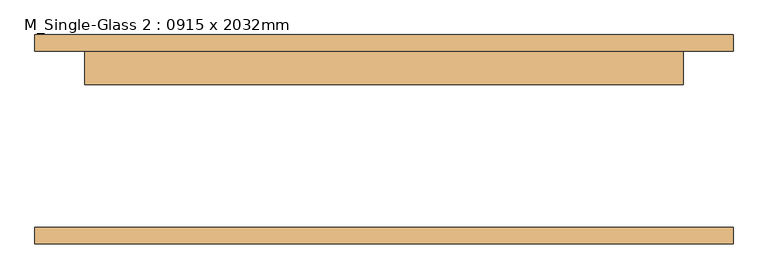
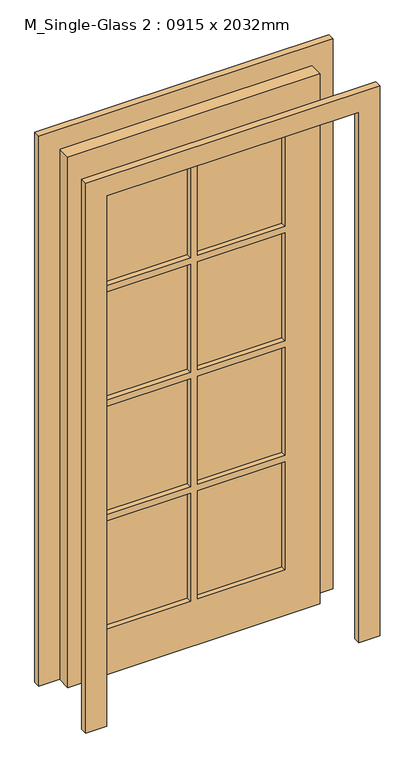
"""IFC4 building model written with IfcOpenShell, lengths in millimetres: door geometry, M_Single-Glass 2 : 0915 x 2032mm."""

from ifc_helpers import new_model, si_unit, frame, origin, place, context, project, spatial, polyline, outline, extrude, source, transform, mapped, element, save


def m_single_glass_2_0915_x_2032mm_2251aea1(model_context):
    return source(origin(), model_context, "Body", "SweptSolid", [
        extrude(outline(polyline([(2108.0, 558.9), (2108.0, -508.1), (0.0, -508.1), (0.0, -432.1), (2032.0, -432.1), (2032.0, 482.9), (0.0, 482.9), (0.0, 558.9), (2108.0, 558.9)])), frame((0.0, -160.0, 0.0), z_axis=(0.0, 1.0, 0.0), x_axis=(0.0, 0.0, 1.0)), (0.0, 0.0, 1.0), 25.0),
        extrude(outline(polyline([(2108.0, -508.1), (0.0, -508.1), (0.0, -432.1), (2032.0, -432.1), (2032.0, 482.9), (0.0, 482.9), (0.0, 558.9), (2108.0, 558.9), (2108.0, -508.1)])), frame((0.0, 135.0, 0.0), z_axis=(0.0, 1.0, 0.0), x_axis=(0.0, 0.0, 1.0)), (0.0, 0.0, 1.0), 25.0),
        extrude(outline(polyline([(2032.0, 482.9), (2032.0, -432.1), (0.0, -432.1), (0.0, 482.9), (2032.0, 482.9)]), holes=[polyline([(1905.4, 12.9), (1491.55, 12.9), (1491.55, -305.1), (1905.4, -305.1), (1905.4, 12.9)]), polyline([(1905.4, 355.9), (1491.55, 355.9), (1491.55, 37.9), (1905.4, 37.9), (1905.4, 355.9)]), polyline([(1466.55, 12.9), (1052.7, 12.9), (1052.7, -305.1), (1466.55, -305.1), (1466.55, 12.9)]), polyline([(1466.55, 355.9), (1052.7, 355.9), (1052.7, 37.9), (1466.55, 37.9), (1466.55, 355.9)]), polyline([(1027.7, 12.9), (613.85, 12.9), (613.85, -305.1), (1027.7, -305.1), (1027.7, 12.9)]), polyline([(1027.7, 355.9), (613.85, 355.9), (613.85, 37.9), (1027.7, 37.9), (1027.7, 355.9)]), polyline([(588.85, 12.9), (175.0, 12.9), (175.0, -305.1), (588.85, -305.1), (588.85, 12.9)]), polyline([(588.85, 355.9), (175.0, 355.9), (175.0, 37.9), (588.85, 37.9), (588.85, 355.9)])]), frame((0.0, 84.0, 0.0), z_axis=(0.0, 1.0, 0.0), x_axis=(0.0, 0.0, 1.0)), (0.0, 0.0, 1.0), 51.0),
        extrude(outline(polyline([(12.9, 103.25), (-305.1, 103.25), (-305.1, 115.75), (12.9, 115.75), (12.9, 103.25)])), frame((0.0, 0.0, 1491.55), z_axis=(0.0, 0.0, 1.0), x_axis=(1.0, 0.0, 0.0)), (0.0, 0.0, 1.0), 413.85),
        extrude(outline(polyline([(355.9, 103.25), (37.9, 103.25), (37.9, 115.75), (355.9, 115.75), (355.9, 103.25)])), frame((0.0, 0.0, 1491.55), z_axis=(0.0, 0.0, 1.0), x_axis=(1.0, 0.0, 0.0)), (0.0, 0.0, 1.0), 413.85),
        extrude(outline(polyline([(355.9, 103.25), (37.9, 103.25), (37.9, 115.75), (355.9, 115.75), (355.9, 103.25)])), frame((0.0, 0.0, 1052.7), z_axis=(0.0, 0.0, 1.0), x_axis=(1.0, 0.0, 0.0)), (0.0, 0.0, 1.0), 413.85),
        extrude(outline(polyline([(12.9, 103.25), (-305.1, 103.25), (-305.1, 115.75), (12.9, 115.75), (12.9, 103.25)])), frame((0.0, 0.0, 1052.7), z_axis=(0.0, 0.0, 1.0), x_axis=(1.0, 0.0, 0.0)), (0.0, 0.0, 1.0), 413.85),
        extrude(outline(polyline([(12.9, 103.25), (-305.1, 103.25), (-305.1, 115.75), (12.9, 115.75), (12.9, 103.25)])), frame((0.0, 0.0, 613.85), z_axis=(0.0, 0.0, 1.0), x_axis=(1.0, 0.0, 0.0)), (0.0, 0.0, 1.0), 413.85),
        extrude(outline(polyline([(355.9, 103.25), (37.9, 103.25), (37.9, 115.75), (355.9, 115.75), (355.9, 103.25)])), frame((0.0, 0.0, 613.85), z_axis=(0.0, 0.0, 1.0), x_axis=(1.0, 0.0, 0.0)), (0.0, 0.0, 1.0), 413.85),
        extrude(outline(polyline([(355.9, 103.25), (37.9, 103.25), (37.9, 115.75), (355.9, 115.75), (355.9, 103.25)])), frame((0.0, 0.0, 175.0), z_axis=(0.0, 0.0, 1.0), x_axis=(1.0, 0.0, 0.0)), (0.0, 0.0, 1.0), 413.85),
        extrude(outline(polyline([(12.9, 103.25), (-305.1, 103.25), (-305.1, 115.75), (12.9, 115.75), (12.9, 103.25)])), frame((0.0, 0.0, 175.0), z_axis=(0.0, 0.0, 1.0), x_axis=(1.0, 0.0, 0.0)), (0.0, 0.0, 1.0), 413.85),
    ])


if __name__ == "__main__":
    model = new_model("IFC4")
    model_context = context("Model", 3, world=origin())
    ifc_project = project(units=[si_unit("LENGTHUNIT", "METRE", prefix="MILLI")], contexts=[model_context])
    site = spatial("IfcSite", under=ifc_project)
    building = spatial("IfcBuilding", under=site)
    placement = place(None, origin())
    m_single_glass_2_0915_x_2032mm_shape = m_single_glass_2_0915_x_2032mm_2251aea1(model_context)
    element("IfcDoor", 1, ObjectType="M_Single-Glass 2 : 0915 x 2032mm", at=placement, inside=building, context=model_context, shape_type="MappedRepresentation", body=[
        mapped(m_single_glass_2_0915_x_2032mm_shape, transform((0.0, 0.0, 0.0), x_axis=(1.0, 0.0, 0.0), y_axis=(0.0, 1.0, 0.0), z_axis=(0.0, 0.0, 1.0))),
    ])
    save(model, "model.ifc")
